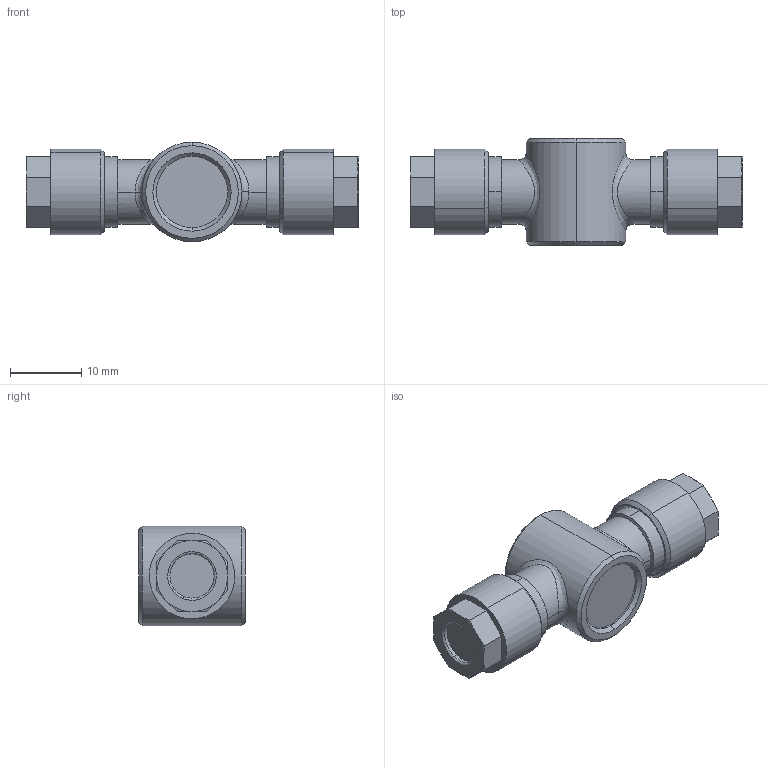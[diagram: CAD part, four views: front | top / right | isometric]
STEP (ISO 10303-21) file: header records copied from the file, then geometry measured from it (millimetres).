
FILE_DESCRIPTION (( 'STEP AP214' ), '1' );
FILE_NAME ('0151000006.step', '2012-09-28T13:27:29', ( '' ), ( '' ), 'SwSTEP 2.0', 'SolidWorks 2012', '' );
FILE_SCHEMA (( 'AUTOMOTIVE_DESIGN' ));
Length unit declared in the file: millimetre
Products named in the file (1): 0151000006
Bounding box: 46.6 x 15 x 14 mm (x, y, z)
Volume: 5142.2 mm3; surface area: 2334.8 mm2
Topology: 1 solids, 1 shells, 96 faces, 214 edges, 130 vertices
Faces by surface type: cone 38, plane 28, cylinder 22, torus 4, bspline 4
Entity records: 4532 total; most frequent: CARTESIAN_POINT 1339, DIRECTION 450, ORIENTED_EDGE 428, EDGE_CURVE 214, AXIS2_PLACEMENT_3D 187, VERTEX_POINT 130, EDGE_LOOP 106, UNCERTAINTY_MEASURE_WITH_UNIT 99
